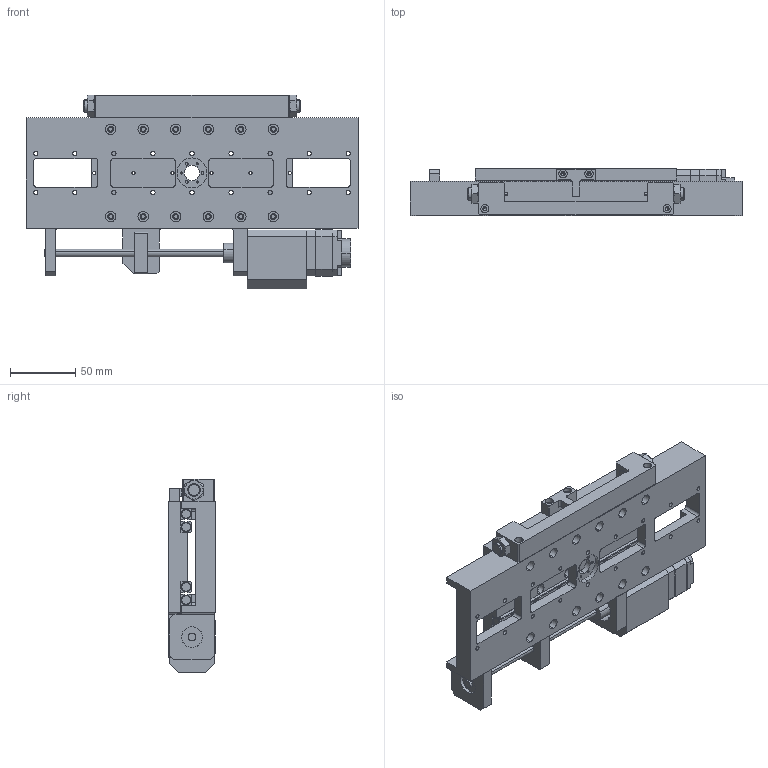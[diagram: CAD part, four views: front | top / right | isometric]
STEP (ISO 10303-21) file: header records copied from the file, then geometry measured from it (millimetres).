
FILE_DESCRIPTION (( 'STEP AP214' ), '1' );
FILE_NAME ('VSM17-X-100-HR-LS.STEP', '2022-12-15T13:46:38', ( '' ), ( '' ), 'SwSTEP 2.0', 'SolidWorks 2022', '' );
FILE_SCHEMA (( 'AUTOMOTIVE_DESIGN' ));
Length unit declared in the file: millimetre
Products named in the file (14): Simplified Leadscrew Nut; Cap Head M4x12.VentSLDPRT; Simplified Drivetrain; 3-8 UNF Nut; Simplified Motor; VSM17-X-100-HR-LS; Simplified Motor Gearbox; Simplified Limit Switch; Simplified VSM17-X LS Actuator; Simplified VSM17-X-100 Base V2; Simplified VSM17-X-100 Carriage; Simplified Roller Bearing 100; Simplified VSM17-X-100 Limit switch mounting block; Simplified Gearbox
Assembly tree (29 placements, depth 3):
  VSM17-X-100-HR-LS
    Simplified VSM17-X-100 Base V2
    Simplified Drivetrain
    Simplified Roller Bearing 100  x4
    Simplified VSM17-X-100 Carriage
    Simplified Leadscrew Nut
    Simplified Motor Gearbox
      Simplified Gearbox
      Simplified Motor
    Simplified VSM17-X-100 Limit switch mounting block
    Simplified Limit Switch  x2
    3-8 UNF Nut  x2
    Simplified VSM17-X LS Actuator
    Cap Head M4x12.VentSLDPRT  x12
Bounding box: 255 x 36 x 148.75 mm (x, y, z)
Volume: 582480.3 mm3; surface area: 188512.9 mm2
Topology: 28 solids, 28 shells, 1313 faces, 3184 edges, 2008 vertices
Faces by surface type: plane 549, cylinder 548, cone 148, torus 68
Entity records: 25173 total; most frequent: DIRECTION 4216, CARTESIAN_POINT 4041, ORIENTED_EDGE 3708, EDGE_CURVE 1854, AXIS2_PLACEMENT_3D 1613, VERTEX_POINT 1212, EDGE_LOOP 1012, LINE 990
